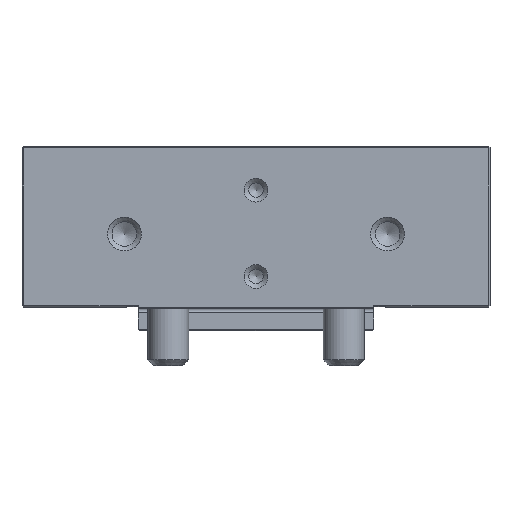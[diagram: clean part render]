
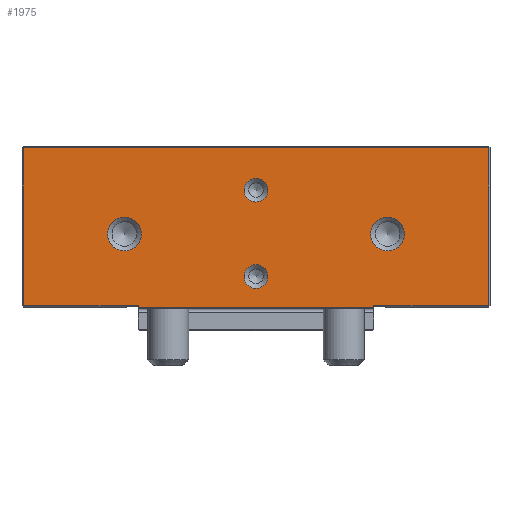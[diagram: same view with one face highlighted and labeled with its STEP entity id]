
A CAD part, front view. The second image highlights one B-rep face of the part: STEP entity #1975.
In plain terms, the highlighted planar face has unit normal (0, -1, 0).
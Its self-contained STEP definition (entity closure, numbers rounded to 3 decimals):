
#1975=ADVANCED_FACE('',(#4621,#4623,#4625,#4627,#4629),#4631,.T.);
#4621=FACE_BOUND('',#4622,.T.);
#4622=EDGE_LOOP('',(#6319,#6320,#6321,#6322,#6323,#6324,#6325,#6326));
#4623=FACE_BOUND('',#4624,.T.);
#4624=EDGE_LOOP('',(#6327));
#4625=FACE_BOUND('',#4626,.T.);
#4626=EDGE_LOOP('',(#6328));
#4627=FACE_BOUND('',#4628,.T.);
#4628=EDGE_LOOP('',(#6329));
#4629=FACE_BOUND('',#4630,.T.);
#4630=EDGE_LOOP('',(#6330));
#4631=PLANE('',#4632);
#4632=AXIS2_PLACEMENT_3D('',#4633,#4634,#4635);
#4633=CARTESIAN_POINT('',(-160.,0.,0.));
#4634=DIRECTION('',(0.,-1.,0.));
#4635=DIRECTION('',(0.,0.,-1.));
#6319=ORIENTED_EDGE('',*,*,#7053,.F.);
#6320=ORIENTED_EDGE('',*,*,#7113,.F.);
#6321=ORIENTED_EDGE('',*,*,#7094,.T.);
#6322=ORIENTED_EDGE('',*,*,#7114,.T.);
#6323=ORIENTED_EDGE('',*,*,#7078,.T.);
#6324=ORIENTED_EDGE('',*,*,#7115,.F.);
#6325=ORIENTED_EDGE('',*,*,#7066,.F.);
#6326=ORIENTED_EDGE('',*,*,#7116,.T.);
#6327=ORIENTED_EDGE('',*,*,#7117,.T.);
#6328=ORIENTED_EDGE('',*,*,#7118,.T.);
#6329=ORIENTED_EDGE('',*,*,#7119,.T.);
#6330=ORIENTED_EDGE('',*,*,#7120,.T.);
#7053=EDGE_CURVE('',#7921,#7919,#7923,.T.);
#7066=EDGE_CURVE('',#7944,#7946,#7947,.T.);
#7078=EDGE_CURVE('',#7969,#7967,#7970,.T.);
#7094=EDGE_CURVE('',#7993,#7995,#7997,.T.);
#7113=EDGE_CURVE('',#7993,#7921,#8024,.T.);
#7114=EDGE_CURVE('',#7995,#7969,#8025,.T.);
#7115=EDGE_CURVE('',#7946,#7967,#8026,.T.);
#7116=EDGE_CURVE('',#7944,#7919,#8027,.T.);
#7117=EDGE_CURVE('',#8028,#8028,#8029,.F.);
#7118=EDGE_CURVE('',#8030,#8030,#8031,.F.);
#7119=EDGE_CURVE('',#8032,#8032,#8033,.F.);
#7120=EDGE_CURVE('',#8034,#8034,#8035,.F.);
#7919=VERTEX_POINT('',#11097);
#7921=VERTEX_POINT('',#11101);
#7923=LINE('',#11105,#11106);
#7944=VERTEX_POINT('',#11151);
#7946=VERTEX_POINT('',#11155);
#7947=LINE('',#11156,#11157);
#7967=VERTEX_POINT('',#11200);
#7969=VERTEX_POINT('',#11204);
#7970=LINE('',#11205,#11206);
#7993=VERTEX_POINT('',#11259);
#7995=VERTEX_POINT('',#11263);
#7997=LINE('',#11267,#11268);
#8024=LINE('',#11336,#11337);
#8025=LINE('',#11339,#11340);
#8026=LINE('',#11342,#11343);
#8027=LINE('',#11345,#11346);
#8028=VERTEX_POINT('',#11348);
#8029=CIRCLE('',#11349,4.059);
#8030=VERTEX_POINT('',#11353);
#8031=CIRCLE('',#11354,5.788);
#8032=VERTEX_POINT('',#11358);
#8033=CIRCLE('',#11359,5.788);
#8034=VERTEX_POINT('',#11363);
#8035=CIRCLE('',#11364,4.059);
#11097=CARTESIAN_POINT('',(-0.5,0.,-54.5));
#11101=CARTESIAN_POINT('',(-0.5,0.,-0.5));
#11105=CARTESIAN_POINT('',(-0.5,0.,-0.5));
#11106=VECTOR('',#11107,1.);
#11107=DIRECTION('',(0.,0.,-1.));
#11151=CARTESIAN_POINT('',(-39.75,0.,-54.5));
#11155=CARTESIAN_POINT('',(-39.75,0.,-55.1));
#11156=CARTESIAN_POINT('',(-39.75,0.,-54.5));
#11157=VECTOR('',#11158,1.);
#11158=DIRECTION('',(0.,0.,-1.));
#11200=CARTESIAN_POINT('',(-120.25,0.,-55.1));
#11204=CARTESIAN_POINT('',(-120.25,0.,-54.5));
#11205=CARTESIAN_POINT('',(-120.25,0.,-54.5));
#11206=VECTOR('',#11207,1.);
#11207=DIRECTION('',(0.,0.,-1.));
#11259=CARTESIAN_POINT('',(-159.5,0.,-0.5));
#11263=CARTESIAN_POINT('',(-159.5,0.,-54.5));
#11267=CARTESIAN_POINT('',(-159.5,0.,-0.5));
#11268=VECTOR('',#11269,1.);
#11269=DIRECTION('',(0.,0.,-1.));
#11336=CARTESIAN_POINT('',(-159.5,0.,-0.5));
#11337=VECTOR('',#11338,1.);
#11338=DIRECTION('',(1.,0.,0.));
#11339=CARTESIAN_POINT('',(-159.5,0.,-54.5));
#11340=VECTOR('',#11341,1.);
#11341=DIRECTION('',(1.,0.,0.));
#11342=CARTESIAN_POINT('',(-39.75,0.,-55.1));
#11343=VECTOR('',#11344,1.);
#11344=DIRECTION('',(-1.,0.,0.));
#11345=CARTESIAN_POINT('',(-39.75,0.,-54.5));
#11346=VECTOR('',#11347,1.);
#11347=DIRECTION('',(1.,0.,0.));
#11348=CARTESIAN_POINT('',(-75.941,0.,-15.));
#11349=AXIS2_PLACEMENT_3D('',#11350,#11351,#11352);
#11350=CARTESIAN_POINT('',(-80.,0.,-15.));
#11351=DIRECTION('',(0.,-1.,0.));
#11352=DIRECTION('',(1.,0.,0.));
#11353=CARTESIAN_POINT('',(-29.212,0.,-30.));
#11354=AXIS2_PLACEMENT_3D('',#11355,#11356,#11357);
#11355=CARTESIAN_POINT('',(-35.,0.,-30.));
#11356=DIRECTION('',(0.,-1.,0.));
#11357=DIRECTION('',(1.,0.,0.));
#11358=CARTESIAN_POINT('',(-119.212,0.,-30.));
#11359=AXIS2_PLACEMENT_3D('',#11360,#11361,#11362);
#11360=CARTESIAN_POINT('',(-125.,0.,-30.));
#11361=DIRECTION('',(0.,-1.,0.));
#11362=DIRECTION('',(1.,0.,0.));
#11363=CARTESIAN_POINT('',(-75.941,0.,-44.5));
#11364=AXIS2_PLACEMENT_3D('',#11365,#11366,#11367);
#11365=CARTESIAN_POINT('',(-80.,0.,-44.5));
#11366=DIRECTION('',(0.,-1.,0.));
#11367=DIRECTION('',(1.,0.,0.));
